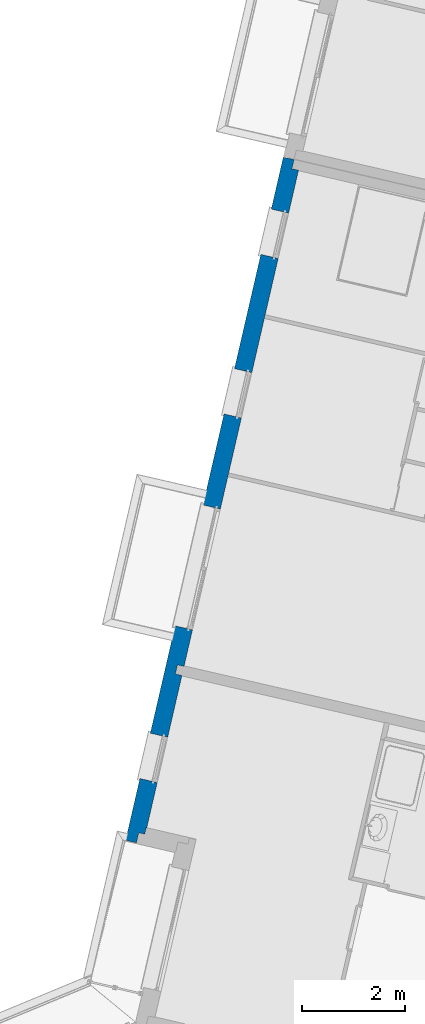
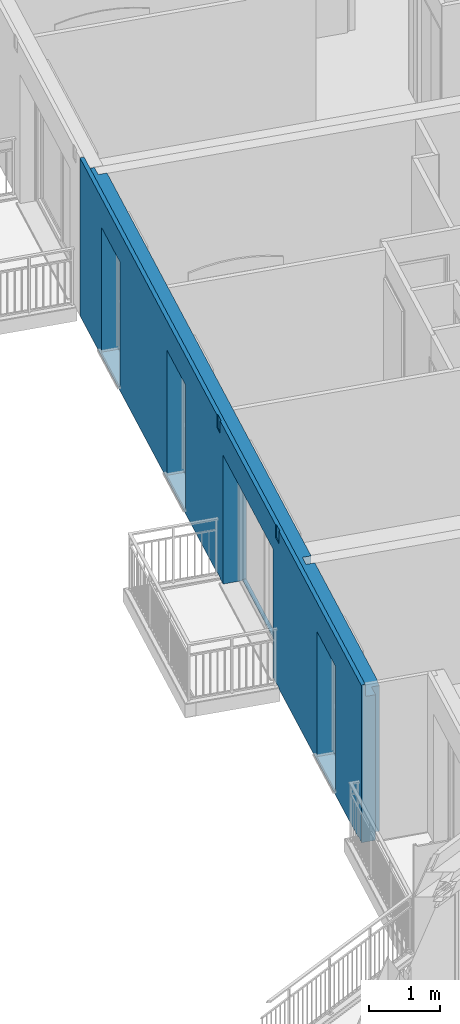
# One storey, part 19 of 91: 1 wall, 4 openings.
"""IFC2X3 building model written with IfcOpenShell, lengths in metres."""

from ifc_helpers import new_model, entity, si_unit, converted_unit, derived_unit, money_unit, direction, frame, origin_with_axes, place, context, subcontext, project, spatial, faceted_brep, material, material_list, type_object, element, save


model = new_model("IFC2X3")

# Units and contexts
model_context = context("Model", 3, precision=1e-05, world=origin_with_axes(), true_north=direction((0.0, 1.0)))
body_context = subcontext(model_context, "Body", "Model", "MODEL_VIEW")
ifc_project = project(units=[si_unit("LENGTHUNIT", "METRE"), si_unit("AREAUNIT", "SQUARE_METRE"), si_unit("VOLUMEUNIT", "CUBIC_METRE"), converted_unit("PLANEANGLEUNIT", "DEGREE", entity("IfcPlaneAngleMeasure", 0.0174532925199), si_unit("PLANEANGLEUNIT", "RADIAN"), dimensions=[0, 0, 0, 0, 0, 0, 0]), si_unit("SOLIDANGLEUNIT", "STERADIAN"), money_unit("EUR"), converted_unit("TIMEUNIT", "Year", entity("IfcTimeMeasure", 31556926.0), si_unit("TIMEUNIT", "SECOND"), dimensions=[0, 0, 1, 0, 0, 0, 0]), si_unit("MASSUNIT", "GRAM", prefix="KILO"), si_unit("THERMODYNAMICTEMPERATUREUNIT", "DEGREE_CELSIUS"), si_unit("LUMINOUSINTENSITYUNIT", "LUMEN"), si_unit("ENERGYUNIT", "JOULE", prefix="MEGA"), derived_unit("THERMALCONDUCTANCEUNIT", [(si_unit("POWERUNIT", "WATT"), 1), (si_unit("LENGTHUNIT", "METRE"), -1), (si_unit("THERMODYNAMICTEMPERATUREUNIT", "KELVIN"), -1)]), derived_unit("SPECIFICHEATCAPACITYUNIT", [(si_unit("ENERGYUNIT", "JOULE"), 1), (si_unit("MASSUNIT", "GRAM", prefix="KILO"), -1), (si_unit("THERMODYNAMICTEMPERATUREUNIT", "KELVIN"), -1)]), derived_unit("MASSDENSITYUNIT", [(si_unit("MASSUNIT", "GRAM", prefix="KILO"), 1), (si_unit("VOLUMEUNIT", "CUBIC_METRE"), -1)])], contexts=[model_context])

# Site, building, storey
site_placement = place(None, origin_with_axes())
site = spatial("IfcSite", under=ifc_project, at=site_placement, Name="Site", CompositionType="ELEMENT")
building_placement = place(site_placement, origin_with_axes())
building = spatial("IfcBuilding", under=site, at=building_placement, Name="Bâtiment", CompositionType="ELEMENT")
storey_placement = place(building_placement, frame((0.0, 0.0, 5.44), z_axis=(0.0, 0.0, 1.0), x_axis=(1.0, 0.0, 0.0)))
storey = spatial("IfcBuildingStorey", under=building, at=storey_placement, Name="R+2", CompositionType="ELEMENT", Elevation=5.44)

# Wall, openings
ifc_material_1 = material(Name="Finition int - Plaque de plâtre")
ifc_material_2 = material(Name="Isolation - Polystyrène extrudé")
ifc_material_3 = material(Name="Bloc ELITHERM")
ifc_material_4 = material(Name="Mortier")
ifc_material_5 = material(Name="Béton cellulaire")
ifc_material_6 = material(Name="Finition ext - Crépis")
ifc_material_list = material_list([ifc_material_1, ifc_material_2, ifc_material_3, ifc_material_4, ifc_material_5, ifc_material_6])
wall_type = type_object("IfcWallType", Name="Mur ALKERN + planelle 21 345 x 2720", PredefinedType="USERDEFINED")
wall_placement = place(storey_placement, frame((-16.9185229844, 3.9902004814, 0.0), z_axis=(0.0, 0.0, 1.0), x_axis=(-0.224876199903, -0.974387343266, 0.0)))
wall = element("IfcWall", 1, at=wall_placement, inside=storey, type_object=wall_type, material=ifc_material_list, Name="Mue bloc ALKERN isolé", ObjectType="SOLIDWALL", context=body_context, shape_type="Brep", body=[
    faceted_brep([(13.256602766, 0.34499998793, 0.0), (10.2201355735, 0.34499998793, 0.0), (10.2201355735, 0.34499998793, 2.51000000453), (13.256602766, 0.34499998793, 2.51), (12.3475578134, 0.34499998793, 2.22), (12.3475578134, 0.34499998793, 2.4), (11.4475578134, 0.34499998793, 2.4), (11.4475578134, 0.34499998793, 2.22), (11.4475578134, 0.34499998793, 0.12), (12.3475578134, 0.34499998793, 0.12), (13.256602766, 0.335000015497, 0.0), (10.2201355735, 0.335000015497, 0.0), (10.2201355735, 0.335000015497, 2.51000000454), (13.256602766, 0.335000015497, 2.51), (12.3475578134, 0.335000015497, 2.22), (12.3475578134, 0.335000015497, 2.4), (11.4475578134, 0.335000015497, 2.4), (11.4475578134, 0.335000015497, 2.22), (11.4475578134, 0.335000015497, 0.12), (12.3475578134, 0.335000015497, 0.12)], [[[0, 1, 2, 3], [4, 5, 6, 7, 8, 9]], [[10, 11, 1, 0]], [[2, 1, 11, 12]], [[3, 2, 12, 13]], [[3, 13, 10, 0]], [[5, 4, 14, 15]], [[6, 5, 15, 16]], [[7, 6, 16, 17]], [[7, 17, 18, 8]], [[8, 18, 19, 9]], [[14, 4, 9, 19]], [[13, 12, 11, 10], [15, 14, 19, 18, 17, 16]]]),
    faceted_brep([(0.180000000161, 0.34499998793, 2.50999999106), (10.0401355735, 0.34499998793, 2.51000000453), (10.0401355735, 0.34499998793, 0.0), (0.180000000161, 0.34499998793, 0.0), (9.31319621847, 0.34499998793, 2.22), (9.31319621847, 0.34499998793, 2.4), (6.91319621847, 0.34499998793, 2.4), (6.91319621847, 0.34499998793, 2.22), (6.91319621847, 0.34499998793, 0.02), (9.31319621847, 0.34499998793, 0.02), (5.1028669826, 0.34499998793, 2.22), (5.1028669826, 0.34499998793, 2.4), (4.2028669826, 0.34499998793, 2.4), (4.2028669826, 0.34499998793, 2.22), (4.2028669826, 0.34499998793, 0.12), (5.1028669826, 0.34499998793, 0.12), (1.93277950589, 0.34499998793, 2.22), (1.93277950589, 0.34499998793, 2.4), (1.03277950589, 0.34499998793, 2.4), (1.03277950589, 0.34499998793, 2.22), (1.03277950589, 0.34499998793, 0.12), (1.93277950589, 0.34499998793, 0.12), (0.180000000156, 0.335000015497, 2.50999999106), (10.0401355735, 0.335000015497, 2.51000000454), (10.0401355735, 0.335000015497, 0.0), (0.180000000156, 0.335000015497, 0.0), (9.31319621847, 0.335000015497, 2.22), (9.31319621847, 0.335000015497, 2.4), (6.91319621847, 0.335000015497, 2.4), (6.91319621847, 0.335000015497, 2.22), (6.91319621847, 0.335000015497, 0.02), (9.31319621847, 0.335000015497, 0.02), (5.1028669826, 0.335000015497, 2.22), (5.1028669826, 0.335000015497, 2.4), (4.2028669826, 0.335000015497, 2.4), (4.2028669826, 0.335000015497, 2.22), (4.2028669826, 0.335000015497, 0.12), (5.1028669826, 0.335000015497, 0.12), (1.93277950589, 0.335000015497, 2.22), (1.93277950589, 0.335000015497, 2.4), (1.03277950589, 0.335000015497, 2.4), (1.03277950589, 0.335000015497, 2.22), (1.03277950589, 0.335000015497, 0.12), (1.93277950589, 0.335000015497, 0.12)], [[[0, 1, 2, 3], [4, 5, 6, 7, 8, 9], [10, 11, 12, 13, 14, 15], [16, 17, 18, 19, 20, 21]], [[22, 23, 1, 0]], [[1, 23, 24, 2]], [[3, 2, 24, 25]], [[0, 3, 25, 22]], [[5, 4, 26, 27]], [[6, 5, 27, 28]], [[7, 6, 28, 29]], [[7, 29, 30, 8]], [[8, 30, 31, 9]], [[26, 4, 9, 31]], [[32, 33, 11, 10]], [[33, 34, 12, 11]], [[34, 35, 13, 12]], [[36, 14, 13, 35]], [[37, 15, 14, 36]], [[15, 37, 32, 10]], [[17, 16, 38, 39]], [[18, 17, 39, 40]], [[19, 18, 40, 41]], [[19, 41, 42, 20]], [[20, 42, 43, 21]], [[38, 16, 21, 43]], [[25, 24, 23, 22], [27, 26, 31, 30, 29, 28], [33, 32, 37, 36, 35, 34], [39, 38, 43, 42, 41, 40]]]),
    faceted_brep([(11.4475578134, 0.245, 0.12), (11.4475578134, 0.286, 0.12), (11.4475578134, 0.335000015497, 0.12), (11.4475578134, 0.335000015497, 2.22), (11.4475578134, 0.245, 2.22), (11.4475578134, 0.215000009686, 0.12), (11.4475578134, 0.215000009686, 0.06), (11.4475578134, 0.286, 0.06), (12.3475578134, 0.286, 0.12), (12.3475578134, 0.335000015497, 0.12), (10.2201355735, 0.335000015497, 2.51000000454), (13.3766027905, 0.335000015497, 2.50999999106), (13.3766027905, 0.335000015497, 0.0), (10.2201355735, 0.335000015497, 0.0), (12.3475578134, 0.335000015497, 2.22), (12.3475578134, 0.335000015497, 2.4), (11.4475578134, 0.335000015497, 2.4), (11.4475578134, 0.215, 2.4), (11.4475578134, 0.215, 2.22), (10.2201355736, 0.215000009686, 0.0), (13.3766027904, 0.215000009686, 0.0), (13.3766027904, 0.215000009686, 2.50999999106), (10.2201355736, 0.215000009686, 2.51000000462), (12.3475578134, 0.215, 2.4), (12.3475578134, 0.215, 2.22), (12.3475578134, 0.215000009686, 0.12), (12.3475578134, 0.215000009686, 0.06), (12.3475578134, 0.286, 0.06), (12.3475578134, 0.245, 0.12), (12.3475578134, 0.245, 2.22)], [[[0, 1, 2, 3, 4]], [[1, 0, 5, 6, 7]], [[1, 8, 9, 2]], [[10, 11, 12, 13], [3, 2, 9, 14, 15, 16]], [[17, 18, 4, 3, 16]], [[5, 0, 4, 18]], [[19, 20, 21, 22], [6, 5, 18, 17, 23, 24, 25, 26]], [[6, 26, 27, 7]], [[8, 1, 7, 27]], [[8, 28, 29, 14, 9]], [[22, 21, 11, 10]], [[20, 12, 11, 21]], [[13, 12, 20, 19]], [[19, 22, 10, 13]], [[29, 24, 23, 15, 14]], [[15, 23, 17, 16]], [[28, 25, 24, 29]], [[28, 8, 27, 26, 25]]]),
    faceted_brep([(1.03277950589, 0.245, 0.12), (1.03277950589, 0.286, 0.12), (1.03277950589, 0.335000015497, 0.12), (1.03277950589, 0.335000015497, 2.22), (1.03277950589, 0.245, 2.22), (1.03277950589, 0.215000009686, 0.12), (1.03277950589, 0.215, 0.06), (1.03277950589, 0.286, 0.06), (1.93277950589, 0.286, 0.12), (1.93277950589, 0.335000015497, 0.12), (10.0401355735, 0.335000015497, 0.0), (0.180000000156, 0.335000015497, 0.0), (0.180000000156, 0.335000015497, 2.50999999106), (10.0401355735, 0.335000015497, 2.51000000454), (6.91319621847, 0.335000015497, 2.22), (6.91319621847, 0.335000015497, 0.02), (9.31319621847, 0.335000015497, 0.02), (9.31319621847, 0.335000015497, 2.22), (9.31319621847, 0.335000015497, 2.4), (6.91319621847, 0.335000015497, 2.4), (4.2028669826, 0.335000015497, 2.22), (4.2028669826, 0.335000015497, 0.12), (5.1028669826, 0.335000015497, 0.12), (5.1028669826, 0.335000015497, 2.22), (5.1028669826, 0.335000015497, 2.4), (4.2028669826, 0.335000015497, 2.4), (1.93277950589, 0.335000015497, 2.22), (1.93277950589, 0.335000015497, 2.4), (1.03277950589, 0.335000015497, 2.4), (1.03277950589, 0.215, 2.4), (1.03277950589, 0.215, 2.22), (6.91319621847, 0.215000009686, 0.0), (6.91319621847, 0.215000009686, 0.02), (6.91319621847, 0.215, 2.22), (6.91319621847, 0.215, 2.4), (9.31319621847, 0.215, 2.4), (9.31319621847, 0.215, 2.22), (9.31319621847, 0.215000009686, 0.02), (9.31319621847, 0.215000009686, 0.0), (10.0401355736, 0.215000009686, 0.0), (10.0401355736, 0.215000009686, 2.51000000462), (0.1800000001, 0.215000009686, 2.50999999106), (0.1800000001, 0.215000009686, 0.0), (5.1028669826, 0.215, 2.4), (5.1028669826, 0.215, 2.22), (5.1028669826, 0.215000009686, 0.12), (5.1028669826, 0.215, 0.06), (4.2028669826, 0.215, 0.06), (4.2028669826, 0.215000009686, 0.12), (4.2028669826, 0.215, 2.22), (4.2028669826, 0.215, 2.4), (1.93277950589, 0.215, 2.4), (1.93277950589, 0.215, 2.22), (1.93277950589, 0.215000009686, 0.12), (1.93277950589, 0.215, 0.06), (1.93277950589, 0.286, 0.06), (1.93277950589, 0.245, 0.12), (1.93277950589, 0.245, 2.22), (6.91319621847, 0.286, 0.0), (9.31319621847, 0.286, 0.0), (6.91319621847, 0.286, 0.02), (6.91319621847, 0.245, 2.22), (6.91319621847, 0.245, 0.02), (9.31319621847, 0.286, 0.02), (9.31319621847, 0.245, 0.02), (9.31319621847, 0.245, 2.22), (4.2028669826, 0.245, 2.22), (4.2028669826, 0.245, 0.12), (4.2028669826, 0.286, 0.12), (5.1028669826, 0.286, 0.12), (5.1028669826, 0.245, 0.12), (5.1028669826, 0.245, 2.22), (5.1028669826, 0.286, 0.06), (4.2028669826, 0.286, 0.06)], [[[0, 1, 2, 3, 4]], [[1, 0, 5, 6, 7]], [[1, 8, 9, 2]], [[10, 11, 12, 13], [14, 15, 16, 17, 18, 19], [20, 21, 22, 23, 24, 25], [3, 2, 9, 26, 27, 28]], [[29, 30, 4, 3, 28]], [[5, 0, 4, 30]], [[31, 32, 33, 34, 35, 36, 37, 38, 39, 40, 41, 42], [43, 44, 45, 46, 47, 48, 49, 50], [6, 5, 30, 29, 51, 52, 53, 54]], [[6, 54, 55, 7]], [[8, 1, 7, 55]], [[8, 56, 57, 26, 9]], [[58, 31, 42, 11, 10, 39, 38, 59]], [[42, 41, 12, 11]], [[13, 12, 41, 40]], [[39, 10, 13, 40]], [[60, 15, 14, 61, 62]], [[60, 63, 16, 15]], [[64, 65, 17, 16, 63]], [[36, 35, 18, 17, 65]], [[18, 35, 34, 19]], [[33, 61, 14, 19, 34]], [[20, 66, 67, 68, 21]], [[68, 69, 22, 21]], [[23, 22, 69, 70, 71]], [[24, 23, 71, 44, 43]], [[24, 43, 50, 25]], [[20, 25, 50, 49, 66]], [[57, 52, 51, 27, 26]], [[27, 51, 29, 28]], [[62, 32, 31, 58, 60]], [[32, 62, 61, 33]], [[64, 37, 36, 65]], [[63, 59, 38, 37, 64]], [[70, 45, 44, 71]], [[46, 45, 70, 69, 72]], [[47, 46, 72, 73]], [[47, 73, 68, 67, 48]], [[48, 67, 66, 49]], [[56, 53, 52, 57]], [[56, 8, 55, 54, 53]], [[63, 60, 58, 59]], [[69, 68, 73, 72]]]),
    faceted_brep([(1.03277950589, 0.015, 0.12), (1.03277950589, 0.214999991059, 0.12), (1.03277950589, 0.214999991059, 2.22), (1.03277950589, 0.015, 2.22), (1.03277950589, 0.214999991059, 0.06), (1.03277950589, 0.015, 0.06), (1.00214059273e-10, 0.214999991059, 0.0), (1.00212282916e-10, 0.214999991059, 2.50999999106), (13.5766027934, 0.214999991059, 2.50999999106), (13.5766027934, 0.214999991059, 0.0), (9.31319621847, 0.214999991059, 0.0), (9.31319621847, 0.214999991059, 0.02), (9.31319621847, 0.214999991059, 2.22), (6.91319621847, 0.214999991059, 2.22), (6.91319621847, 0.214999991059, 0.02), (6.91319621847, 0.214999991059, 0.0), (5.1028669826, 0.214999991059, 0.06), (5.1028669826, 0.214999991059, 0.12), (5.1028669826, 0.214999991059, 2.22), (4.2028669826, 0.214999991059, 2.22), (4.2028669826, 0.214999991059, 0.12), (4.2028669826, 0.214999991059, 0.06), (12.3475578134, 0.214999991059, 0.06), (12.3475578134, 0.214999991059, 0.12), (12.3475578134, 0.214999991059, 2.22), (11.4475578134, 0.214999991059, 2.22), (11.4475578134, 0.214999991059, 0.12), (11.4475578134, 0.214999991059, 0.06), (1.93277950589, 0.214999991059, 0.06), (1.93277950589, 0.214999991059, 0.12), (1.93277950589, 0.214999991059, 2.22), (1.93277950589, 0.015, 2.22), (6.91319621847, 0.015, 2.22), (9.31319621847, 0.015, 2.22), (9.31319621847, 0.015, 0.02), (9.31319621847, 0.015, 0.0), (13.5766027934, 0.015, 0.0), (13.5766027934, 0.015, 2.50999999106), (0.0, 0.015, 2.50999999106), (0.0, 0.015, 0.0), (6.91319621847, 0.015, 0.0), (6.91319621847, 0.015, 0.02), (4.2028669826, 0.015, 0.06), (4.2028669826, 0.015, 0.12), (4.2028669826, 0.015, 2.22), (5.1028669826, 0.015, 2.22), (5.1028669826, 0.015, 0.12), (5.1028669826, 0.015, 0.06), (11.4475578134, 0.015, 0.06), (11.4475578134, 0.015, 0.12), (11.4475578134, 0.015, 2.22), (12.3475578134, 0.015, 2.22), (12.3475578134, 0.015, 0.12), (12.3475578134, 0.015, 0.06), (1.93277950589, 0.015, 0.12), (1.93277950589, 0.015, 0.06), (0.0, 0.0829999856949, 2.50999999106), (13.5766027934, 0.0829999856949, 2.50999999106)], [[[0, 1, 2, 3]], [[4, 1, 0, 5]], [[6, 7, 8, 9, 10, 11, 12, 13, 14, 15], [16, 17, 18, 19, 20, 21], [22, 23, 24, 25, 26, 27], [28, 29, 30, 2, 1, 4]], [[30, 31, 3, 2]], [[32, 33, 34, 35, 36, 37, 38, 39, 40, 41], [42, 43, 44, 45, 46, 47], [48, 49, 50, 51, 52, 53], [5, 0, 3, 31, 54, 55]], [[28, 4, 5, 55]], [[56, 7, 6, 39, 38]], [[57, 8, 7, 56]], [[8, 57, 37, 36, 9]], [[9, 36, 35, 10]], [[10, 35, 34, 11]], [[33, 12, 11, 34]], [[32, 13, 12, 33]], [[13, 32, 41, 14]], [[41, 40, 15, 14]], [[39, 6, 15, 40]], [[46, 17, 16, 47]], [[17, 46, 45, 18]], [[18, 45, 44, 19]], [[43, 20, 19, 44]], [[21, 20, 43, 42]], [[16, 21, 42, 47]], [[22, 53, 52, 23]], [[51, 24, 23, 52]], [[50, 25, 24, 51]], [[25, 50, 49, 26]], [[49, 48, 27, 26]], [[48, 53, 22, 27]], [[54, 29, 28, 55]], [[29, 54, 31, 30]], [[37, 57, 56, 38]]]),
    faceted_brep([(13.5766027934, 0.015, 2.51999999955), (13.5766027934, 0.083, 2.51999999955), (0.0, 0.083, 2.52), (0.0, 0.015, 2.52), (13.5766027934, 0.083, 2.50999999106), (13.5766027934, 0.015, 2.50999999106), (0.0, 0.083, 2.51), (0.0, 0.015, 2.51)], [[[0, 1, 2, 3]], [[4, 1, 0, 5]], [[1, 4, 6, 2]], [[7, 3, 2, 6]], [[5, 0, 3, 7]], [[4, 5, 7, 6]]]),
    faceted_brep([(13.5766027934, 0.015, 2.72), (13.5766027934, 0.0629999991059, 2.72), (0.0, 0.0629999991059, 2.72000000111), (0.0, 0.015, 2.72000000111), (13.5766027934, 0.0629999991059, 2.51999999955), (13.5766027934, 0.015, 2.51999999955), (0.0, 0.0629999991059, 2.51999998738), (0.0, 0.015, 2.51999999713)], [[[0, 1, 2, 3]], [[4, 1, 0, 5]], [[1, 4, 6, 2]], [[7, 3, 2, 6]], [[5, 0, 3, 7]], [[4, 5, 7, 6]]]),
    faceted_brep([(1.03277950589, 0.0, 0.12), (1.03277950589, 0.014999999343, 0.12), (1.03277950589, 0.014999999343, 2.22), (1.03277950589, 0.0, 2.22), (1.03277950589, 0.0149999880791, 0.06), (1.03277950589, 0.0, 0.06), (9.61319621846, 0.014999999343, 2.50999999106), (9.61319621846, 0.014999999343, 2.51999999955), (9.61319621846, 0.014999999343, 2.72), (13.5916027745, 0.0149999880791, 2.72), (13.5916027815, 0.014999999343, 0.01), (13.5816222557, 0.014999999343, 0.0206237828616), (13.4415833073, 0.014999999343, 0.0293762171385), (13.4316027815, 0.014999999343, 0.02), (13.4316027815, 0.014999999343, 0.0), (9.61319621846, 0.014999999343, 0.0), (9.61319621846, 0.014999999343, 0.01), (9.60321569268, 0.014999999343, 0.0193762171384), (9.46317674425, 0.014999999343, 0.0106237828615), (9.45319621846, 0.014999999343, 0.0), (9.31319621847, 0.0149999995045, 0.0), (9.31319621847, 0.0150000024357, 0.02), (9.31319621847, 0.0150000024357, 2.22), (6.91319621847, 0.0150000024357, 2.22), (6.91319621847, 0.0150000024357, 0.02), (6.91319621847, 0.0150000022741, 0.0), (6.77319621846, 0.0150000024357, 0.0), (6.76321569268, 0.0150000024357, 0.0106237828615), (6.62317674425, 0.0150000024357, 0.0193762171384), (6.61319621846, 0.0150000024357, 0.01), (6.61319621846, 0.0150000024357, 0.0), (0.0, 0.0149999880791, 0.0), (0.0, 0.0149999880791, 2.52), (0.0, 0.0149999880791, 2.72000000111), (6.61319621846, 0.0150000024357, 2.72), (6.61319621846, 0.0150000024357, 2.51999999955), (6.61319621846, 0.0150000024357, 2.50999999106), (6.61319621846, 0.0150000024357, 2.50872065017), (6.61319621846, 0.0150000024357, 2.5), (6.62819621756, 0.0150000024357, 2.5), (6.64793720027, 0.0150000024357, 2.5), (6.77319621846, 0.0150000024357, 2.5), (6.77319621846, 0.0150000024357, 2.50872065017), (6.77319621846, 0.0150000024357, 2.50999999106), (6.77319621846, 0.0150000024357, 2.51999999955), (6.77319621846, 0.0150000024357, 2.72), (9.45319621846, 0.014999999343, 2.72), (9.45319621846, 0.014999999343, 2.51999999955), (9.45319621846, 0.014999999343, 2.50999999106), (9.45319621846, 0.014999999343, 2.50872065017), (9.45319621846, 0.014999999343, 2.5), (9.57845523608, 0.014999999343, 2.5), (9.59819621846, 0.014999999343, 2.5), (9.61319621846, 0.014999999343, 2.5), (9.61319621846, 0.014999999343, 2.50872065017), (5.1028669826, 0.0150000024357, 0.06), (5.1028669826, 0.0150000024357, 0.12), (5.1028669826, 0.0150000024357, 2.22), (4.2028669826, 0.0150000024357, 2.22), (4.2028669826, 0.0150000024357, 0.12), (4.2028669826, 0.0150000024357, 0.06), (12.3475578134, 0.014999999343, 0.06), (12.3475578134, 0.014999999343, 0.12), (12.3475578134, 0.014999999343, 2.22), (11.4475578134, 0.014999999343, 2.22), (11.4475578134, 0.014999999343, 0.12), (11.4475578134, 0.014999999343, 0.06), (1.93277950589, 0.0149999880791, 0.06), (1.93277950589, 0.014999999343, 0.12), (1.93277950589, 0.014999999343, 2.22), (1.93277950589, 0.0, 2.22), (6.77319621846, 0.0, 2.50999999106), (6.77319621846, 0.0, 2.50872065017), (6.77319621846, 0.0, 2.5), (6.64793720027, 0.0, 2.5), (6.62819621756, 0.0, 2.5), (6.61319621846, 0.0, 2.5), (6.61319621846, 0.0, 2.50872065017), (6.61319621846, 0.0, 2.50999999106), (6.61319621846, 0.0, 2.51999999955), (6.61319621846, 2.41236364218e-10, 2.72), (0.0, 4.66620520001e-10, 2.72000000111), (0.0, 4.66620520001e-10, 2.52), (0.0, 0.0, 0.0), (6.61319621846, 0.0, 0.0), (6.61319621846, 0.0, 0.01), (6.62317674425, 0.0, 0.0193762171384), (6.76321569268, 0.0, 0.0106237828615), (6.77319621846, 0.0, 0.0), (6.91319621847, 0.0, 0.0), (6.91319621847, 0.0, 0.02), (6.91319621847, 0.0, 2.22), (9.31319621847, 0.0, 2.22), (9.31319621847, 0.0, 0.02), (9.31319621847, 0.0, 0.0), (9.45319621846, 0.0, 0.0), (9.46317674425, 0.0, 0.0106237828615), (9.60321569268, 0.0, 0.0193762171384), (9.61319621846, 0.0, 0.01), (9.61319621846, 0.0, 0.0), (13.4316027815, 0.0, 0.0), (13.4316027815, 0.0, 0.02), (13.4415833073, 0.0, 0.0293762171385), (13.5816222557, 0.0, 0.0206237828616), (13.5916027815, 0.0, 0.01), (13.5916027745, 0.0, 2.72), (9.61319621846, 1.38989264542e-10, 2.72), (9.61319621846, 0.0, 2.51999999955), (9.61319621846, 0.0, 2.50999999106), (9.61319621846, 0.0, 2.50872065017), (9.61319621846, 0.0, 2.5), (9.59819621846, 0.0, 2.5), (9.57845523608, 0.0, 2.5), (9.45319621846, 0.0, 2.5), (9.45319621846, 0.0, 2.50872065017), (9.45319621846, 0.0, 2.50999999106), (9.45319621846, 0.0, 2.51999999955), (9.45319621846, 1.44446232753e-10, 2.72), (6.77319621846, 2.35782948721e-10, 2.72), (6.77319621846, 0.0, 2.51999999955), (4.2028669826, 0.0, 0.06), (4.2028669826, 0.0, 0.12), (4.2028669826, 0.0, 2.22), (5.1028669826, 0.0, 2.22), (5.1028669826, 0.0, 0.12), (5.1028669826, 0.0, 0.06), (11.4475578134, 2.41232811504e-10, 0.06), (11.4475578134, 0.0, 0.12), (11.4475578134, 0.0, 2.22), (12.3475578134, 0.0, 2.22), (12.3475578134, 0.0, 0.12), (12.3475578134, 2.41236364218e-10, 0.06), (1.93277950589, 0.0, 0.12), (1.93277950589, 0.0, 0.06)], [[[0, 1, 2, 3]], [[4, 1, 0, 5]], [[6, 7, 8, 9, 10, 11, 12, 13, 14, 15, 16, 17, 18, 19, 20, 21, 22, 23, 24, 25, 26, 27, 28, 29, 30, 31, 32, 33, 34, 35, 36, 37, 38, 39, 40, 41, 42, 43, 44, 45, 46, 47, 48, 49, 50, 51, 52, 53, 54], [55, 56, 57, 58, 59, 60], [61, 62, 63, 64, 65, 66], [67, 68, 69, 2, 1, 4]], [[69, 70, 3, 2]], [[71, 72, 73, 74, 75, 76, 77, 78, 79, 80, 81, 82, 83, 84, 85, 86, 87, 88, 89, 90, 91, 92, 93, 94, 95, 96, 97, 98, 99, 100, 101, 102, 103, 104, 105, 106, 107, 108, 109, 110, 111, 112, 113, 114, 115, 116, 117, 118, 119], [120, 121, 122, 123, 124, 125], [126, 127, 128, 129, 130, 131], [5, 0, 3, 70, 132, 133]], [[67, 4, 5, 133]], [[108, 107, 7, 6]], [[107, 106, 8, 7]], [[9, 8, 106, 105]], [[105, 104, 10, 9]], [[103, 11, 10, 104]], [[102, 12, 11, 103]], [[101, 13, 12, 102]], [[100, 14, 13, 101]], [[15, 14, 100, 99]], [[98, 16, 15, 99]], [[97, 17, 16, 98]], [[96, 18, 17, 97]], [[96, 95, 19, 18]], [[19, 95, 94, 20]], [[20, 94, 93, 21]], [[92, 22, 21, 93]], [[91, 23, 22, 92]], [[23, 91, 90, 24]], [[90, 89, 25, 24]], [[88, 26, 25, 89]], [[87, 27, 26, 88]], [[86, 28, 27, 87]], [[85, 29, 28, 86]], [[84, 30, 29, 85]], [[31, 30, 84, 83]], [[31, 83, 82, 32]], [[81, 33, 32, 82]], [[81, 80, 34, 33]], [[79, 35, 34, 80]], [[36, 35, 79, 78]], [[37, 36, 78, 77]], [[38, 37, 77, 76]], [[76, 75, 39, 38]], [[75, 74, 40, 39]], [[73, 41, 40, 74]], [[73, 72, 42, 41]], [[72, 71, 43, 42]], [[71, 119, 44, 43]], [[119, 118, 45, 44]], [[118, 117, 46, 45]], [[116, 47, 46, 117]], [[48, 47, 116, 115]], [[49, 48, 115, 114]], [[50, 49, 114, 113]], [[113, 112, 51, 50]], [[112, 111, 52, 51]], [[110, 53, 52, 111]], [[110, 109, 54, 53]], [[109, 108, 6, 54]], [[124, 56, 55, 125]], [[56, 124, 123, 57]], [[57, 123, 122, 58]], [[121, 59, 58, 122]], [[60, 59, 121, 120]], [[55, 60, 120, 125]], [[61, 131, 130, 62]], [[129, 63, 62, 130]], [[128, 64, 63, 129]], [[64, 128, 127, 65]], [[127, 126, 66, 65]], [[126, 131, 61, 66]], [[132, 68, 67, 133]], [[68, 132, 70, 69]]]),
])
opening_1_placement = place(wall_placement, frame((8.11319621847, 0.0, 0.02), z_axis=(0.0, 0.0, 1.0), x_axis=(1.0, 0.0, 0.0)))
element("IfcOpeningElement", 2, at=opening_1_placement, cuts=wall, Name="MEN 78", context=body_context, shape_type="Brep", body=[
    faceted_brep([(-1.2, 0.83499998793, 0.0), (1.2, 0.83499998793, 0.0), (1.2, 0.245, 0.0), (-1.2, 0.245, 0.0), (-1.2, 0.83499998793, 2.2), (1.2, 0.83499998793, 2.2), (1.2, 0.245, 2.2), (-1.2, 0.245, 2.2)], [[[0, 1, 2, 3]], [[0, 4, 5, 1]], [[1, 5, 6, 2]], [[3, 2, 6, 7]], [[4, 0, 3, 7]], [[5, 4, 7, 6]]]),
    faceted_brep([(-1.2, -0.34499998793, 0.0), (-1.2, -0.34499998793, 2.2), (-1.2, 0.245, 2.2), (-1.2, 0.245, 0.0), (1.2, -0.34499998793, 0.0), (1.2, -0.34499998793, 2.2), (1.2, 0.245, 2.2), (1.2, 0.245, 0.0)], [[[0, 1, 2, 3]], [[0, 4, 5, 1]], [[1, 5, 6, 2]], [[3, 2, 6, 7]], [[4, 0, 3, 7]], [[5, 4, 7, 6]]]),
    faceted_brep([(-1.2, -0.34499998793, 0.0), (-1.2, -0.34499998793, 2.2), (-1.2, 0.245, 2.2), (-1.2, 0.245, 0.0), (1.2, -0.34499998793, 0.0), (1.2, -0.34499998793, 2.2), (1.2, 0.245, 2.2), (1.2, 0.245, 0.0)], [[[0, 1, 2, 3]], [[0, 4, 5, 1]], [[1, 5, 6, 2]], [[3, 2, 6, 7]], [[4, 0, 3, 7]], [[5, 4, 7, 6]]]),
    faceted_brep([(-1.2, 0.80499998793, 2.2), (1.2, 0.80499998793, 2.2), (1.2, 0.215, 2.2), (-1.2, 0.215, 2.2), (-1.2, 0.80499998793, 2.38), (1.2, 0.80499998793, 2.38), (1.2, 0.215, 2.38), (-1.2, 0.215, 2.38)], [[[0, 1, 2, 3]], [[0, 4, 5, 1]], [[1, 5, 6, 2]], [[3, 2, 6, 7]], [[4, 0, 3, 7]], [[5, 4, 7, 6]]]),
    faceted_brep([(-1.2, -0.30399998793, 0.0), (1.2, -0.30399998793, 0.0), (1.2, 0.286, 0.0), (-1.2, 0.286, 0.0), (-1.2, -0.30399998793, -0.06), (1.2, -0.30399998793, -0.06), (1.2, 0.286, -0.06), (-1.2, 0.286, -0.06)], [[[0, 1, 2, 3]], [[0, 4, 5, 1]], [[1, 5, 6, 2]], [[3, 2, 6, 7]], [[4, 0, 3, 7]], [[5, 4, 7, 6]]]),
])
opening_2_placement = place(wall_placement, frame((4.6528669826, 0.0, 0.12), z_axis=(0.0, 0.0, 1.0), x_axis=(1.0, 0.0, 0.0)))
element("IfcOpeningElement", 3, at=opening_2_placement, cuts=wall, Name="MEN 77", context=body_context, shape_type="Brep", body=[
    faceted_brep([(0.45, 0.245, 0.0), (-0.45, 0.245, 0.0), (-0.45, 0.83499998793, 0.0), (0.45, 0.83499998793, 0.0), (0.45, 0.245, 2.1), (-0.45, 0.245, 2.1), (-0.45, 0.83499998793, 2.1), (0.45, 0.83499998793, 2.1)], [[[0, 1, 2, 3]], [[0, 4, 5, 1]], [[1, 5, 6, 2]], [[3, 2, 6, 7]], [[4, 0, 3, 7]], [[5, 4, 7, 6]]]),
    faceted_brep([(0.45, 0.245, 0.0), (0.45, 0.245, 2.1), (0.45, -0.34499998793, 2.1), (0.45, -0.34499998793, 0.0), (-0.45, 0.245, 0.0), (-0.45, 0.245, 2.1), (-0.45, -0.34499998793, 2.1), (-0.45, -0.34499998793, 0.0)], [[[0, 1, 2, 3]], [[0, 4, 5, 1]], [[1, 5, 6, 2]], [[3, 2, 6, 7]], [[4, 0, 3, 7]], [[5, 4, 7, 6]]]),
    faceted_brep([(0.45, 0.245, 0.0), (0.45, 0.245, 2.1), (0.45, -0.34499998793, 2.1), (0.45, -0.34499998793, 0.0), (-0.45, 0.245, 0.0), (-0.45, 0.245, 2.1), (-0.45, -0.34499998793, 2.1), (-0.45, -0.34499998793, 0.0)], [[[0, 1, 2, 3]], [[0, 4, 5, 1]], [[1, 5, 6, 2]], [[3, 2, 6, 7]], [[4, 0, 3, 7]], [[5, 4, 7, 6]]]),
    faceted_brep([(0.45, 0.215, 2.1), (-0.45, 0.215, 2.1), (-0.45, 0.80499998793, 2.1), (0.45, 0.80499998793, 2.1), (0.45, 0.215, 2.28), (-0.45, 0.215, 2.28), (-0.45, 0.80499998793, 2.28), (0.45, 0.80499998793, 2.28)], [[[0, 1, 2, 3]], [[0, 4, 5, 1]], [[1, 5, 6, 2]], [[3, 2, 6, 7]], [[4, 0, 3, 7]], [[5, 4, 7, 6]]]),
    faceted_brep([(0.45, 0.286, 0.0), (-0.45, 0.286, 0.0), (-0.45, -0.30399998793, 0.0), (0.45, -0.30399998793, 0.0), (0.45, 0.286, -0.06), (-0.45, 0.286, -0.06), (-0.45, -0.30399998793, -0.06), (0.45, -0.30399998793, -0.06)], [[[0, 1, 2, 3]], [[0, 4, 5, 1]], [[1, 5, 6, 2]], [[3, 2, 6, 7]], [[4, 0, 3, 7]], [[5, 4, 7, 6]]]),
])
opening_3_placement = place(wall_placement, frame((11.8975578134, 0.0, 0.12), z_axis=(0.0, 0.0, 1.0), x_axis=(1.0, 0.0, 0.0)))
element("IfcOpeningElement", 4, at=opening_3_placement, cuts=wall, Name="MEN 79", context=body_context, shape_type="Brep", body=[
    faceted_brep([(-0.45, 0.83499998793, 0.0), (0.45, 0.83499998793, 0.0), (0.45, 0.245, 0.0), (-0.45, 0.245, 0.0), (-0.45, 0.83499998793, 2.1), (0.45, 0.83499998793, 2.1), (0.45, 0.245, 2.1), (-0.45, 0.245, 2.1)], [[[0, 1, 2, 3]], [[0, 4, 5, 1]], [[1, 5, 6, 2]], [[3, 2, 6, 7]], [[4, 0, 3, 7]], [[5, 4, 7, 6]]]),
    faceted_brep([(-0.45, -0.34499998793, 0.0), (-0.45, -0.34499998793, 2.1), (-0.45, 0.245, 2.1), (-0.45, 0.245, 0.0), (0.45, -0.34499998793, 0.0), (0.45, -0.34499998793, 2.1), (0.45, 0.245, 2.1), (0.45, 0.245, 0.0)], [[[0, 1, 2, 3]], [[0, 4, 5, 1]], [[1, 5, 6, 2]], [[3, 2, 6, 7]], [[4, 0, 3, 7]], [[5, 4, 7, 6]]]),
    faceted_brep([(-0.45, -0.34499998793, 0.0), (-0.45, -0.34499998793, 2.1), (-0.45, 0.245, 2.1), (-0.45, 0.245, 0.0), (0.45, -0.34499998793, 0.0), (0.45, -0.34499998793, 2.1), (0.45, 0.245, 2.1), (0.45, 0.245, 0.0)], [[[0, 1, 2, 3]], [[0, 4, 5, 1]], [[1, 5, 6, 2]], [[3, 2, 6, 7]], [[4, 0, 3, 7]], [[5, 4, 7, 6]]]),
    faceted_brep([(-0.45, 0.80499998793, 2.1), (0.45, 0.80499998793, 2.1), (0.45, 0.215, 2.1), (-0.45, 0.215, 2.1), (-0.45, 0.80499998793, 2.28), (0.45, 0.80499998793, 2.28), (0.45, 0.215, 2.28), (-0.45, 0.215, 2.28)], [[[0, 1, 2, 3]], [[0, 4, 5, 1]], [[1, 5, 6, 2]], [[3, 2, 6, 7]], [[4, 0, 3, 7]], [[5, 4, 7, 6]]]),
    faceted_brep([(-0.45, -0.30399998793, 0.0), (0.45, -0.30399998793, 0.0), (0.45, 0.286, 0.0), (-0.45, 0.286, 0.0), (-0.45, -0.30399998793, -0.06), (0.45, -0.30399998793, -0.06), (0.45, 0.286, -0.06), (-0.45, 0.286, -0.06)], [[[0, 1, 2, 3]], [[0, 4, 5, 1]], [[1, 5, 6, 2]], [[3, 2, 6, 7]], [[4, 0, 3, 7]], [[5, 4, 7, 6]]]),
])
opening_4_placement = place(wall_placement, frame((1.48277950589, 0.0, 0.12), z_axis=(0.0, 0.0, 1.0), x_axis=(1.0, 0.0, 0.0)))
element("IfcOpeningElement", 5, at=opening_4_placement, cuts=wall, Name="MEN 76", context=body_context, shape_type="Brep", body=[
    faceted_brep([(-0.45, 0.83499998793, 0.0), (0.45, 0.83499998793, 0.0), (0.45, 0.245, 0.0), (-0.45, 0.245, 0.0), (-0.45, 0.83499998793, 2.1), (0.45, 0.83499998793, 2.1), (0.45, 0.245, 2.1), (-0.45, 0.245, 2.1)], [[[0, 1, 2, 3]], [[0, 4, 5, 1]], [[1, 5, 6, 2]], [[3, 2, 6, 7]], [[4, 0, 3, 7]], [[5, 4, 7, 6]]]),
    faceted_brep([(-0.45, -0.34499998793, 0.0), (-0.45, -0.34499998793, 2.1), (-0.45, 0.245, 2.1), (-0.45, 0.245, 0.0), (0.45, -0.34499998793, 0.0), (0.45, -0.34499998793, 2.1), (0.45, 0.245, 2.1), (0.45, 0.245, 0.0)], [[[0, 1, 2, 3]], [[0, 4, 5, 1]], [[1, 5, 6, 2]], [[3, 2, 6, 7]], [[4, 0, 3, 7]], [[5, 4, 7, 6]]]),
    faceted_brep([(-0.45, -0.34499998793, 0.0), (-0.45, -0.34499998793, 2.1), (-0.45, 0.245, 2.1), (-0.45, 0.245, 0.0), (0.45, -0.34499998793, 0.0), (0.45, -0.34499998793, 2.1), (0.45, 0.245, 2.1), (0.45, 0.245, 0.0)], [[[0, 1, 2, 3]], [[0, 4, 5, 1]], [[1, 5, 6, 2]], [[3, 2, 6, 7]], [[4, 0, 3, 7]], [[5, 4, 7, 6]]]),
    faceted_brep([(-0.45, 0.80499998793, 2.1), (0.45, 0.80499998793, 2.1), (0.45, 0.215, 2.1), (-0.45, 0.215, 2.1), (-0.45, 0.80499998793, 2.28), (0.45, 0.80499998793, 2.28), (0.45, 0.215, 2.28), (-0.45, 0.215, 2.28)], [[[0, 1, 2, 3]], [[0, 4, 5, 1]], [[1, 5, 6, 2]], [[3, 2, 6, 7]], [[4, 0, 3, 7]], [[5, 4, 7, 6]]]),
    faceted_brep([(-0.45, -0.30399998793, 0.0), (0.45, -0.30399998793, 0.0), (0.45, 0.286, 0.0), (-0.45, 0.286, 0.0), (-0.45, -0.30399998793, -0.06), (0.45, -0.30399998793, -0.06), (0.45, 0.286, -0.06), (-0.45, 0.286, -0.06)], [[[0, 1, 2, 3]], [[0, 4, 5, 1]], [[1, 5, 6, 2]], [[3, 2, 6, 7]], [[4, 0, 3, 7]], [[5, 4, 7, 6]]]),
])

save(model, "model.ifc")
